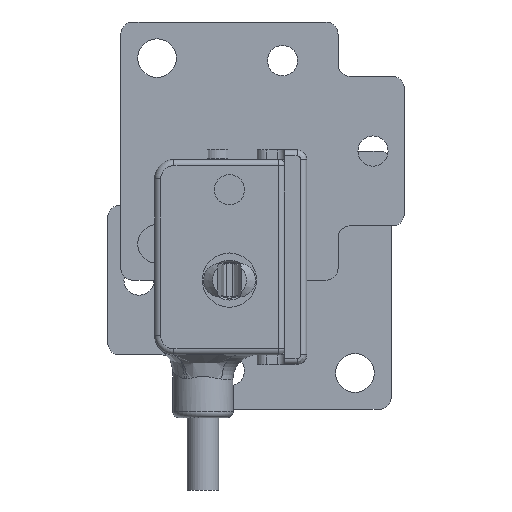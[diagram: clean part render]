
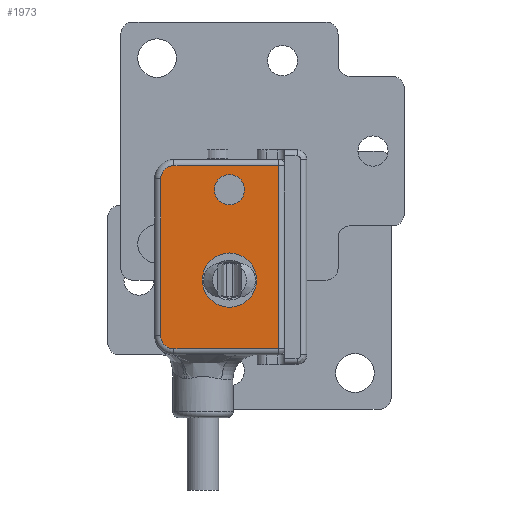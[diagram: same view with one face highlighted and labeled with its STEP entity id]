
A CAD part, front view. The second image highlights one B-rep face of the part: STEP entity #1973.
In plain terms, the highlighted planar face has unit normal (0, -1, 0).
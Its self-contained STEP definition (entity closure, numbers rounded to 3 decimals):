
#1973 = ADVANCED_FACE( '', ( #3563, #3564, #3565 ), #3566, .F. );
#3563 = FACE_OUTER_BOUND( '', #4474, .T. );
#3564 = FACE_BOUND( '', #4475, .T. );
#3565 = FACE_BOUND( '', #4476, .T. );
#3566 = PLANE( '', #4477 );
#4017 = EDGE_CURVE( '', #5123, #5128, #5130, .T. );
#4247 = EDGE_CURVE( '', #5128, #5484, #5486, .T. );
#4420 = EDGE_CURVE( '', #5717, #5717, #5718, .F. );
#4436 = EDGE_CURVE( '', #5484, #5734, #5736, .T. );
#4446 = EDGE_CURVE( '', #5746, #5746, #5747, .T. );
#4474 = EDGE_LOOP( '', ( #5853, #5854, #5855, #5856, #5857, #5858 ) );
#4475 = EDGE_LOOP( '', ( #5859 ) );
#4476 = EDGE_LOOP( '', ( #5860 ) );
#4477 = AXIS2_PLACEMENT_3D( '', #5861, #5862, #5863 );
#5123 = VERTEX_POINT( '', #7288 );
#5128 = VERTEX_POINT( '', #7293 );
#5130 = CIRCLE( '', #7295, 1.1 );
#5484 = VERTEX_POINT( '', #8017 );
#5486 = LINE( '', #8019, #8020 );
#5717 = VERTEX_POINT( '', #8483 );
#5718 = CIRCLE( '', #8484, 1.25 );
#5734 = VERTEX_POINT( '', #8504 );
#5736 = CIRCLE( '', #8506, 1.1 );
#5746 = VERTEX_POINT( '', #8517 );
#5747 = CIRCLE( '', #8518, 2.25 );
#5853 = ORIENTED_EDGE( '', *, *, #8595, .T. );
#5854 = ORIENTED_EDGE( '', *, *, #4017, .T. );
#5855 = ORIENTED_EDGE( '', *, *, #4247, .T. );
#5856 = ORIENTED_EDGE( '', *, *, #4436, .T. );
#5857 = ORIENTED_EDGE( '', *, *, #8588, .T. );
#5858 = ORIENTED_EDGE( '', *, *, #8596, .T. );
#5859 = ORIENTED_EDGE( '', *, *, #4420, .F. );
#5860 = ORIENTED_EDGE( '', *, *, #4446, .T. );
#5861 = CARTESIAN_POINT( '', ( 4.6, -4., -6.2 ) );
#5862 = DIRECTION( '', ( 0., 1., 0. ) );
#5863 = DIRECTION( '', ( -1., 0., 0. ) );
#7288 = CARTESIAN_POINT( '', ( -4.6, -4., 9.5 ) );
#7293 = CARTESIAN_POINT( '', ( -5.7, -4., 8.4 ) );
#7295 = AXIS2_PLACEMENT_3D( '', #9098, #9099, #9100 );
#8017 = CARTESIAN_POINT( '', ( -5.7, -4., -4.6 ) );
#8019 = CARTESIAN_POINT( '', ( -5.7, -4., -4.6 ) );
#8020 = VECTOR( '', #9367, 1000. );
#8483 = CARTESIAN_POINT( '', ( -1.25, -4., 7.5 ) );
#8484 = AXIS2_PLACEMENT_3D( '', #9545, #9546, #9547 );
#8504 = CARTESIAN_POINT( '', ( -4.6, -4., -5.7 ) );
#8506 = AXIS2_PLACEMENT_3D( '', #9558, #9559, #9560 );
#8517 = CARTESIAN_POINT( '', ( -2.25, -4., 0. ) );
#8518 = AXIS2_PLACEMENT_3D( '', #9568, #9569, #9570 );
#8588 = EDGE_CURVE( '', #5734, #9649, #9651, .F. );
#8595 = EDGE_CURVE( '', #9662, #5123, #9663, .T. );
#8596 = EDGE_CURVE( '', #9649, #9662, #9664, .F. );
#9098 = CARTESIAN_POINT( '', ( -4.6, -4., 8.4 ) );
#9099 = DIRECTION( '', ( 0., -1., 0. ) );
#9100 = DIRECTION( '', ( 0., 0., -1. ) );
#9367 = DIRECTION( '', ( 0., 0., -1. ) );
#9545 = CARTESIAN_POINT( '', ( 0., -4., 7.5 ) );
#9546 = DIRECTION( '', ( 0., 1., 0. ) );
#9547 = DIRECTION( '', ( -1., 0., 0. ) );
#9558 = CARTESIAN_POINT( '', ( -4.6, -4., -4.6 ) );
#9559 = DIRECTION( '', ( 0., -1., 0. ) );
#9560 = DIRECTION( '', ( 0., 0., -1. ) );
#9568 = CARTESIAN_POINT( '', ( 0., -4., 0. ) );
#9569 = DIRECTION( '', ( 0., 1., 0. ) );
#9570 = DIRECTION( '', ( -1., 0., 0. ) );
#9649 = VERTEX_POINT( '', #10056 );
#9651 = LINE( '', #10058, #10059 );
#9662 = VERTEX_POINT( '', #10074 );
#9663 = LINE( '', #10075, #10076 );
#9664 = LINE( '', #10077, #10078 );
#10056 = CARTESIAN_POINT( '', ( 4.1, -4., -5.7 ) );
#10058 = CARTESIAN_POINT( '', ( 4.6, -4., -5.7 ) );
#10059 = VECTOR( '', #10621, 1000. );
#10074 = CARTESIAN_POINT( '', ( 4.1, -4., 9.5 ) );
#10075 = CARTESIAN_POINT( '', ( -4.6, -4., 9.5 ) );
#10076 = VECTOR( '', #10632, 1000. );
#10077 = CARTESIAN_POINT( '', ( 4.1, -4., 10. ) );
#10078 = VECTOR( '', #10633, 1000. );
#10621 = DIRECTION( '', ( -1., 0., 0. ) );
#10632 = DIRECTION( '', ( -1., 0., 0. ) );
#10633 = DIRECTION( '', ( 0., 0., -1. ) );
